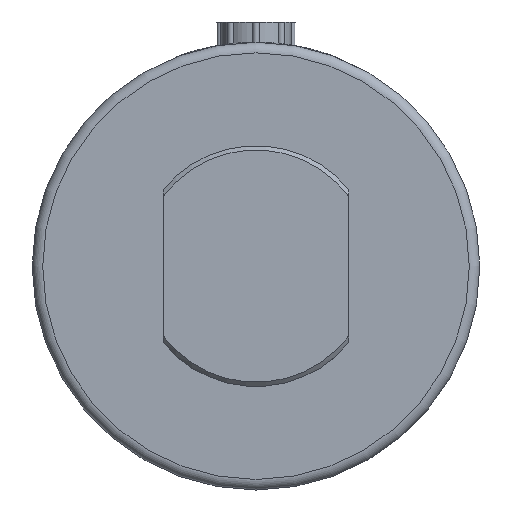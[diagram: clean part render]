
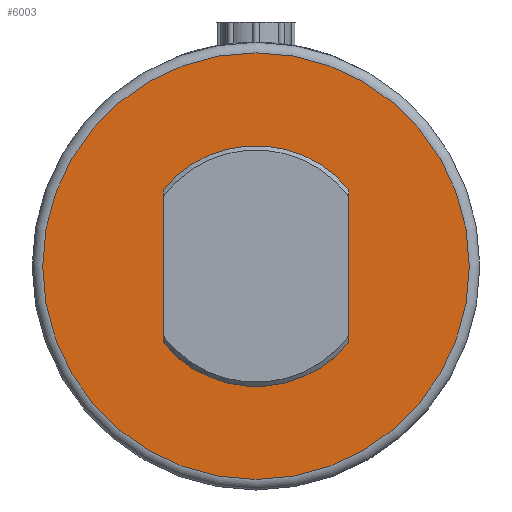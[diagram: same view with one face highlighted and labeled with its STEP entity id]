
A CAD part, left-side view. The second image highlights one B-rep face of the part: STEP entity #6003.
In plain terms, the highlighted planar face has unit normal (-1, 0, 0).
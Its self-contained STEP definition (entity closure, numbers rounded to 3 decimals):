
#620=PLANE('',#6430);
#762=FACE_OUTER_BOUND('',#1100,.T.);
#1100=EDGE_LOOP('',(#4024,#4025));
#2089=CIRCLE('',#6427,50.5);
#2090=CIRCLE('',#6428,50.5);
#2364=VERTEX_POINT('',#8825);
#2365=VERTEX_POINT('',#8827);
#3012=EDGE_CURVE('',#2364,#2365,#2089,.T.);
#3013=EDGE_CURVE('',#2365,#2364,#2090,.T.);
#4024=ORIENTED_EDGE('',*,*,#3013,.F.);
#4025=ORIENTED_EDGE('',*,*,#3012,.F.);
#6003=ADVANCED_FACE('',(#762),#620,.T.);
#6427=AXIS2_PLACEMENT_3D('',#8828,#7027,#7028);
#6428=AXIS2_PLACEMENT_3D('',#8829,#7029,#7030);
#6430=AXIS2_PLACEMENT_3D('',#8831,#7033,#7034);
#7027=DIRECTION('center_axis',(1.,0.,0.));
#7028=DIRECTION('ref_axis',(0.,-1.,0.));
#7029=DIRECTION('center_axis',(1.,0.,0.));
#7030=DIRECTION('ref_axis',(0.,-1.,0.));
#7033=DIRECTION('center_axis',(-1.,0.,0.));
#7034=DIRECTION('ref_axis',(0.,0.,1.));
#8825=CARTESIAN_POINT('',(-82.,0.,50.5));
#8827=CARTESIAN_POINT('',(-82.,50.5,0.));
#8828=CARTESIAN_POINT('Origin',(-82.,0.,0.));
#8829=CARTESIAN_POINT('Origin',(-82.,0.,0.));
#8831=CARTESIAN_POINT('Origin',(-82.,35.5,0.));
